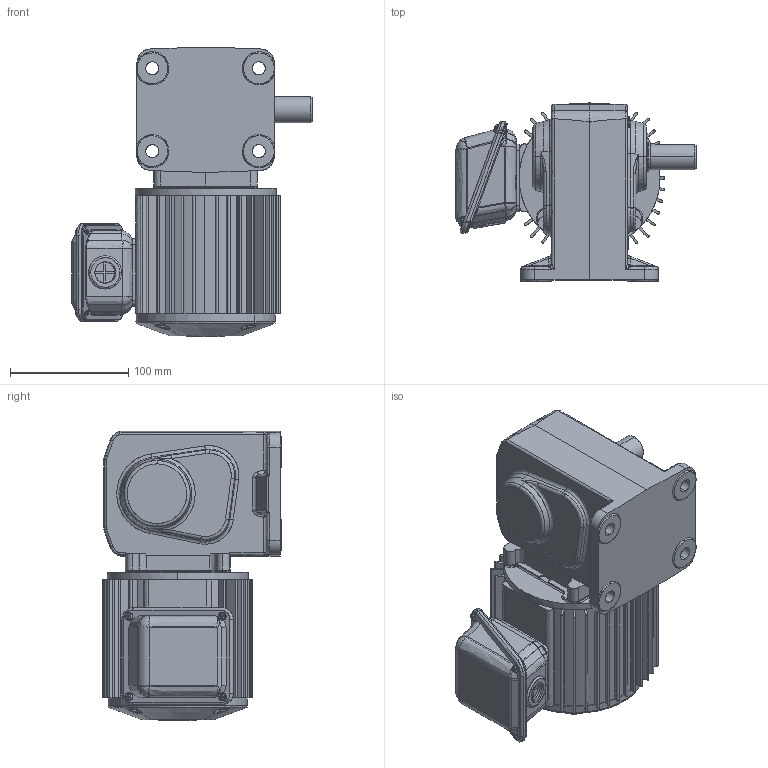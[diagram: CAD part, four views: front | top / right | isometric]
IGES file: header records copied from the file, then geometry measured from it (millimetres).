
Start section: SolidWorks IGES file using analytic representation for surfaces
Global section: file name: \\100.100.100.8\1_共有作業フォルダ\1-5_３Ｄデータ\solidworks\personal-folder\H.Nagayama\HL外形\HL(3D)\igs\TMHL-01-(5~240)B.IGS; native system: SolidWorks 2018; preprocessor: SolidWorks 2018; author: sigma-giken; date: 200324.132918; units: millimetre
Bounding box: 203 x 151 x 245 mm (x, y, z)
Surface area: 344705.7 mm2 (no closed solid volume)
Topology: 0 solids, 0 shells, 1463 faces, 17783 edges, 17702 vertices
Faces by surface type: bspline 753, revolution 710
